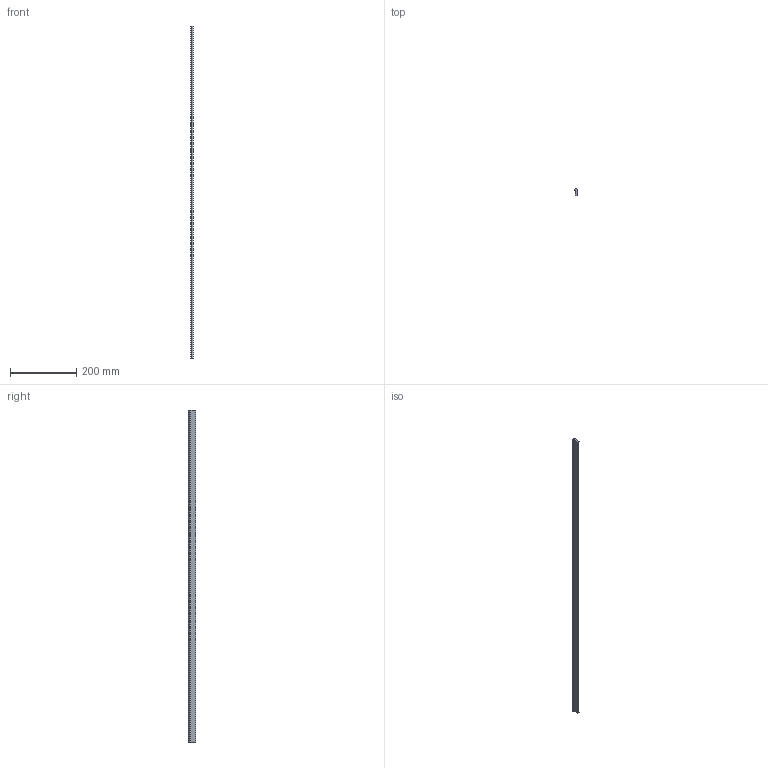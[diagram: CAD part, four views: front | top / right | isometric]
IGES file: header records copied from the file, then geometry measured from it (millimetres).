
Start section: 3D InterOp IGES (v. 2019 1.0.2), Spatial Corp. Copyright (c) 1999-2017.
Global section: file name: T3-1000.igs; native system: Spatial Corp.; preprocessor: 3D InterOp GENERIC/IGES 3.0; author: Noname; organization: Noname; date: 20200930.105757; units: millimetre
Bounding box: 8.71 x 21.6 x 1000 mm (x, y, z)
Surface area: 56159.6 mm2 (no closed solid volume)
Topology: 0 solids, 0 shells, 18 faces, 96 edges, 96 vertices
Faces by surface type: revolution 9, extrusion 9
